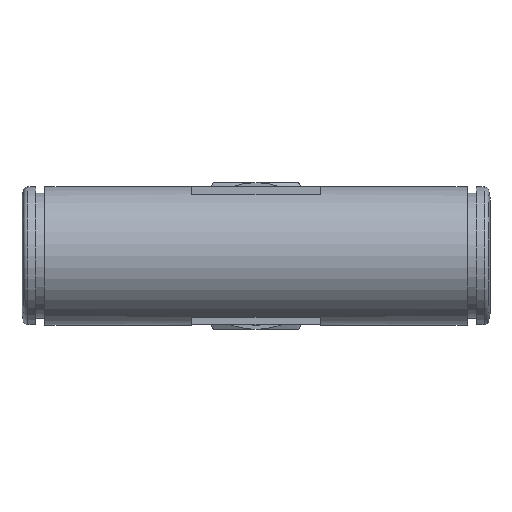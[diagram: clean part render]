
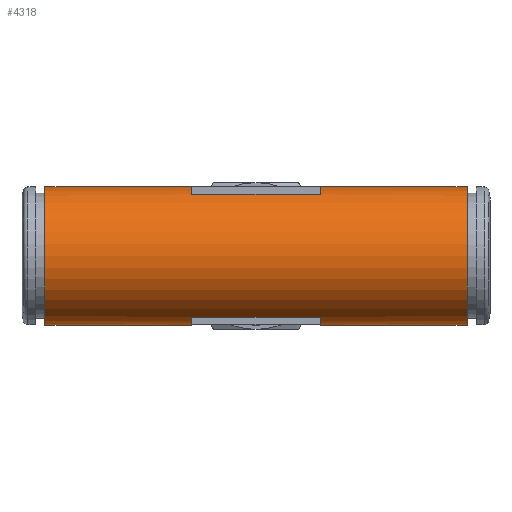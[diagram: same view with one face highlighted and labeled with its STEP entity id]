
A CAD part, top view. The second image highlights one B-rep face of the part: STEP entity #4318.
In plain terms, the highlighted cylindrical face has radius 7.55 mm (diameter 15.1 mm), a full revolution.
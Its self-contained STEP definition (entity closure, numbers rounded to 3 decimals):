
#16=ELLIPSE('',#4105,10.677,7.55);
#17=ELLIPSE('',#4112,10.677,7.55);
#2036=CYLINDRICAL_SURFACE('',#4098,7.55);
#2063=VECTOR('',#3664,1.);
#2064=VECTOR('',#3671,1.);
#2065=VECTOR('',#3674,1.);
#2066=VECTOR('',#3681,1.);
#2067=VECTOR('',#3688,1.);
#2068=VECTOR('',#3691,1.);
#2127=LINE('',#5715,#2063);
#2128=LINE('',#5723,#2064);
#2129=LINE('',#5727,#2065);
#2130=LINE('',#5735,#2066);
#2131=LINE('',#5743,#2067);
#2132=LINE('',#5747,#2068);
#2401=ORIENTED_EDGE('',*,*,#2965,.F.);
#2402=ORIENTED_EDGE('',*,*,#2964,.T.);
#2403=ORIENTED_EDGE('',*,*,#2966,.F.);
#2404=ORIENTED_EDGE('',*,*,#2967,.F.);
#2405=ORIENTED_EDGE('',*,*,#2968,.F.);
#2406=ORIENTED_EDGE('',*,*,#2969,.F.);
#2407=ORIENTED_EDGE('',*,*,#2970,.F.);
#2408=ORIENTED_EDGE('',*,*,#2971,.F.);
#2409=ORIENTED_EDGE('',*,*,#2972,.F.);
#2410=ORIENTED_EDGE('',*,*,#2973,.F.);
#2411=ORIENTED_EDGE('',*,*,#2974,.F.);
#2412=ORIENTED_EDGE('',*,*,#2975,.F.);
#2413=ORIENTED_EDGE('',*,*,#2976,.F.);
#2414=ORIENTED_EDGE('',*,*,#2977,.F.);
#2415=ORIENTED_EDGE('',*,*,#2978,.F.);
#2416=ORIENTED_EDGE('',*,*,#2979,.F.);
#2417=ORIENTED_EDGE('',*,*,#2980,.F.);
#2418=ORIENTED_EDGE('',*,*,#2981,.F.);
#2419=ORIENTED_EDGE('',*,*,#2982,.F.);
#2420=ORIENTED_EDGE('',*,*,#2983,.F.);
#2421=ORIENTED_EDGE('',*,*,#2984,.F.);
#2422=ORIENTED_EDGE('',*,*,#2985,.F.);
#2683=CIRCLE('',#4097,7.55);
#2684=CIRCLE('',#4099,7.55);
#2685=CIRCLE('',#4100,7.55);
#2686=CIRCLE('',#4101,7.55);
#2687=CIRCLE('',#4102,7.55);
#2688=CIRCLE('',#4103,7.55);
#2689=CIRCLE('',#4104,7.55);
#2690=CIRCLE('',#4106,7.55);
#2691=CIRCLE('',#4107,7.55);
#2692=CIRCLE('',#4108,7.55);
#2693=CIRCLE('',#4109,7.55);
#2694=CIRCLE('',#4110,7.55);
#2695=CIRCLE('',#4111,7.55);
#2696=CIRCLE('',#4113,7.55);
#2804=VERTEX_POINT('',#5704);
#2805=VERTEX_POINT('',#5707);
#2806=VERTEX_POINT('',#5709);
#2807=VERTEX_POINT('',#5710);
#2808=VERTEX_POINT('',#5712);
#2809=VERTEX_POINT('',#5714);
#2810=VERTEX_POINT('',#5716);
#2811=VERTEX_POINT('',#5718);
#2812=VERTEX_POINT('',#5720);
#2813=VERTEX_POINT('',#5722);
#2814=VERTEX_POINT('',#5724);
#2815=VERTEX_POINT('',#5726);
#2816=VERTEX_POINT('',#5728);
#2817=VERTEX_POINT('',#5730);
#2818=VERTEX_POINT('',#5732);
#2819=VERTEX_POINT('',#5734);
#2820=VERTEX_POINT('',#5736);
#2821=VERTEX_POINT('',#5738);
#2822=VERTEX_POINT('',#5740);
#2823=VERTEX_POINT('',#5742);
#2824=VERTEX_POINT('',#5744);
#2825=VERTEX_POINT('',#5746);
#2964=EDGE_CURVE('',#2804,#2804,#2683,.T.);
#2965=EDGE_CURVE('',#2805,#2805,#2684,.T.);
#2966=EDGE_CURVE('',#2806,#2807,#2685,.T.);
#2967=EDGE_CURVE('',#2808,#2806,#2686,.T.);
#2968=EDGE_CURVE('',#2809,#2808,#2127,.T.);
#2969=EDGE_CURVE('',#2810,#2809,#2687,.T.);
#2970=EDGE_CURVE('',#2811,#2810,#2688,.T.);
#2971=EDGE_CURVE('',#2812,#2811,#2689,.T.);
#2972=EDGE_CURVE('',#2813,#2812,#2128,.T.);
#2973=EDGE_CURVE('',#2814,#2813,#16,.T.);
#2974=EDGE_CURVE('',#2815,#2814,#2129,.T.);
#2975=EDGE_CURVE('',#2816,#2815,#2690,.T.);
#2976=EDGE_CURVE('',#2817,#2816,#2691,.T.);
#2977=EDGE_CURVE('',#2818,#2817,#2692,.T.);
#2978=EDGE_CURVE('',#2819,#2818,#2130,.T.);
#2979=EDGE_CURVE('',#2820,#2819,#2693,.T.);
#2980=EDGE_CURVE('',#2821,#2820,#2694,.T.);
#2981=EDGE_CURVE('',#2822,#2821,#2695,.T.);
#2982=EDGE_CURVE('',#2823,#2822,#2131,.T.);
#2983=EDGE_CURVE('',#2824,#2823,#17,.T.);
#2984=EDGE_CURVE('',#2825,#2824,#2132,.T.);
#2985=EDGE_CURVE('',#2807,#2825,#2696,.T.);
#3147=EDGE_LOOP('',(#2401));
#3148=EDGE_LOOP('',(#2402));
#3149=EDGE_LOOP('',(#2403,#2404,#2405,#2406,#2407,#2408,#2409,#2410,#2411,
#2412,#2413,#2414,#2415,#2416,#2417,#2418,#2419,#2420,#2421,#2422));
#3327=FACE_BOUND('',#3147,.T.);
#3328=FACE_BOUND('',#3148,.T.);
#3329=FACE_BOUND('',#3149,.T.);
#3654=DIRECTION('',(1.,0.,0.));
#3655=DIRECTION('',(0.,7.55,0.));
#3656=DIRECTION('',(-1.,0.,0.));
#3657=DIRECTION('',(0.,1.,0.));
#3658=DIRECTION('',(1.,0.,0.));
#3659=DIRECTION('',(0.,7.55,0.));
#3660=DIRECTION('',(-1.,0.,0.));
#3661=DIRECTION('',(0.,0.867,-7.5));
#3662=DIRECTION('',(-1.,0.,0.));
#3663=DIRECTION('',(0.,3.5,-6.69));
#3664=DIRECTION('',(14.,0.,0.));
#3665=DIRECTION('',(1.,0.,0.));
#3666=DIRECTION('',(0.,0.867,-7.5));
#3667=DIRECTION('',(1.,0.,0.));
#3668=DIRECTION('',(0.,-0.867,-7.5));
#3669=DIRECTION('',(1.,0.,0.));
#3670=DIRECTION('',(0.,-3.5,-6.69));
#3671=DIRECTION('',(-3.5,0.,0.));
#3672=DIRECTION('',(0.707,-0.707,0.));
#3673=DIRECTION('',(-0.707,-0.707,0.));
#3674=DIRECTION('',(3.5,0.,0.));
#3675=DIRECTION('',(1.,0.,0.));
#3676=DIRECTION('',(0.,-0.867,7.5));
#3677=DIRECTION('',(1.,0.,0.));
#3678=DIRECTION('',(0.,0.867,7.5));
#3679=DIRECTION('',(1.,0.,0.));
#3680=DIRECTION('',(0.,3.5,6.69));
#3681=DIRECTION('',(-14.,0.,0.));
#3682=DIRECTION('',(-1.,0.,0.));
#3683=DIRECTION('',(0.,0.867,7.5));
#3684=DIRECTION('',(-1.,0.,0.));
#3685=DIRECTION('',(0.,-0.867,7.5));
#3686=DIRECTION('',(-1.,0.,0.));
#3687=DIRECTION('',(0.,-3.5,6.69));
#3688=DIRECTION('',(3.5,0.,0.));
#3689=DIRECTION('',(-0.707,-0.707,0.));
#3690=DIRECTION('',(0.707,-0.707,0.));
#3691=DIRECTION('',(-3.5,0.,0.));
#3692=DIRECTION('',(-1.,0.,0.));
#3693=DIRECTION('',(0.,-0.867,-7.5));
#4097=AXIS2_PLACEMENT_3D('',#5705,#3654,#3655);
#4098=AXIS2_PLACEMENT_3D('',#5706,#3656,#3657);
#4099=AXIS2_PLACEMENT_3D('',#5708,#3658,#3659);
#4100=AXIS2_PLACEMENT_3D('',#5711,#3660,#3661);
#4101=AXIS2_PLACEMENT_3D('',#5713,#3662,#3663);
#4102=AXIS2_PLACEMENT_3D('',#5717,#3665,#3666);
#4103=AXIS2_PLACEMENT_3D('',#5719,#3667,#3668);
#4104=AXIS2_PLACEMENT_3D('',#5721,#3669,#3670);
#4105=AXIS2_PLACEMENT_3D('',#5725,#3672,#3673);
#4106=AXIS2_PLACEMENT_3D('',#5729,#3675,#3676);
#4107=AXIS2_PLACEMENT_3D('',#5731,#3677,#3678);
#4108=AXIS2_PLACEMENT_3D('',#5733,#3679,#3680);
#4109=AXIS2_PLACEMENT_3D('',#5737,#3682,#3683);
#4110=AXIS2_PLACEMENT_3D('',#5739,#3684,#3685);
#4111=AXIS2_PLACEMENT_3D('',#5741,#3686,#3687);
#4112=AXIS2_PLACEMENT_3D('',#5745,#3689,#3690);
#4113=AXIS2_PLACEMENT_3D('',#5748,#3692,#3693);
#4318=ADVANCED_FACE('',(#3327,#3328,#3329),#2036,.T.);
#5704=CARTESIAN_POINT('',(15.312,39.674,0.));
#5705=CARTESIAN_POINT('',(15.312,32.124,0.));
#5706=CARTESIAN_POINT('',(61.312,32.124,0.));
#5707=CARTESIAN_POINT('',(61.312,39.674,0.));
#5708=CARTESIAN_POINT('',(61.312,32.124,0.));
#5709=CARTESIAN_POINT('',(45.312,32.992,-7.5));
#5710=CARTESIAN_POINT('',(45.312,31.257,-7.5));
#5711=CARTESIAN_POINT('',(45.312,32.124,0.));
#5712=CARTESIAN_POINT('',(45.312,35.624,-6.69));
#5713=CARTESIAN_POINT('',(45.312,32.124,0.));
#5714=CARTESIAN_POINT('',(31.312,35.624,-6.69));
#5715=CARTESIAN_POINT('',(31.312,35.624,-6.69));
#5716=CARTESIAN_POINT('',(31.312,32.992,-7.5));
#5717=CARTESIAN_POINT('',(31.312,32.124,0.));
#5718=CARTESIAN_POINT('',(31.312,31.257,-7.5));
#5719=CARTESIAN_POINT('',(31.312,32.124,0.));
#5720=CARTESIAN_POINT('',(31.312,28.624,-6.69));
#5721=CARTESIAN_POINT('',(31.312,32.124,0.));
#5722=CARTESIAN_POINT('',(34.812,28.624,-6.69));
#5723=CARTESIAN_POINT('',(34.812,28.624,-6.69));
#5724=CARTESIAN_POINT('',(34.812,28.624,6.69));
#5725=CARTESIAN_POINT('',(38.312,32.124,0.));
#5726=CARTESIAN_POINT('',(31.312,28.624,6.69));
#5727=CARTESIAN_POINT('',(31.312,28.624,6.69));
#5728=CARTESIAN_POINT('',(31.312,31.257,7.5));
#5729=CARTESIAN_POINT('',(31.312,32.124,0.));
#5730=CARTESIAN_POINT('',(31.312,32.992,7.5));
#5731=CARTESIAN_POINT('',(31.312,32.124,0.));
#5732=CARTESIAN_POINT('',(31.312,35.624,6.69));
#5733=CARTESIAN_POINT('',(31.312,32.124,0.));
#5734=CARTESIAN_POINT('',(45.312,35.624,6.69));
#5735=CARTESIAN_POINT('',(45.312,35.624,6.69));
#5736=CARTESIAN_POINT('',(45.312,32.992,7.5));
#5737=CARTESIAN_POINT('',(45.312,32.124,0.));
#5738=CARTESIAN_POINT('',(45.312,31.257,7.5));
#5739=CARTESIAN_POINT('',(45.312,32.124,0.));
#5740=CARTESIAN_POINT('',(45.312,28.624,6.69));
#5741=CARTESIAN_POINT('',(45.312,32.124,0.));
#5742=CARTESIAN_POINT('',(41.812,28.624,6.69));
#5743=CARTESIAN_POINT('',(41.812,28.624,6.69));
#5744=CARTESIAN_POINT('',(41.812,28.624,-6.69));
#5745=CARTESIAN_POINT('',(38.312,32.124,0.));
#5746=CARTESIAN_POINT('',(45.312,28.624,-6.69));
#5747=CARTESIAN_POINT('',(45.312,28.624,-6.69));
#5748=CARTESIAN_POINT('',(45.312,32.124,0.));
